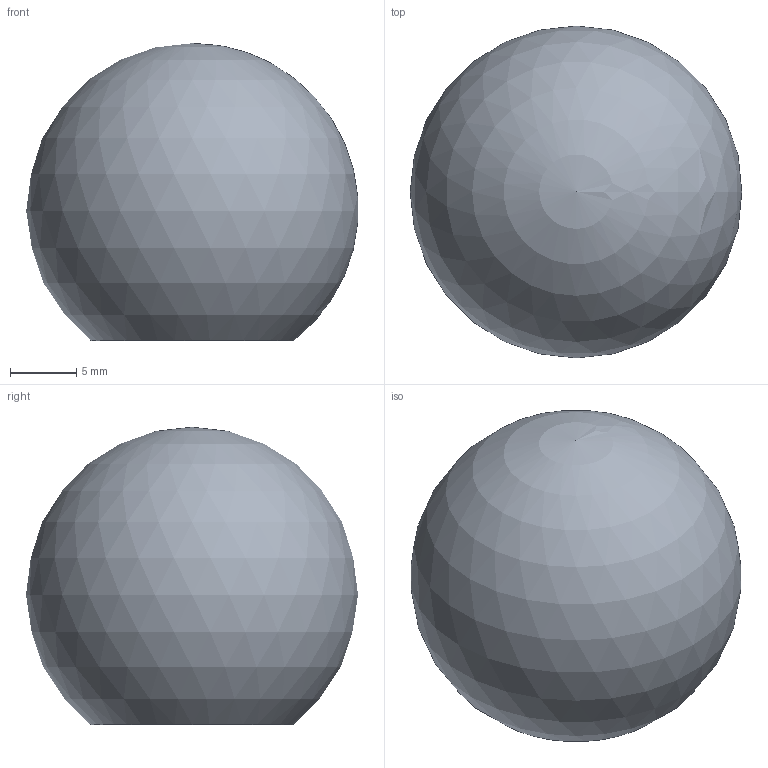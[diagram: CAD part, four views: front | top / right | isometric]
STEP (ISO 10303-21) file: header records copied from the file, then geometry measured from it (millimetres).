
FILE_DESCRIPTION( ('This file contains a STEP AP42 implementation' ,'as created by ZW3D STEP Interface translator.') ,'2;1' );
FILE_NAME( 'Galka kulista DK25 typA.stp' ,'26 331. 9 013', (''), ('ZWCAD Software Co.'), 'Version 1.0', 'ZW3D to STEP translator', '' );
FILE_SCHEMA(('AP242_MANAGED_MODEL_BASED_3D_ENGINEERING_MIM_LF { 1 0 10303 442 1 1 4 }'));
Length unit declared in the file: millimetre
Products named in the file (1): 0
Bounding box: 24.96 x 25 x 22.4 mm (x, y, z)
Volume: 7324.3 mm3; surface area: 4208.8 mm2
Topology: 2 solids, 2 shells, 17 faces, 30 edges, 17 vertices
Faces by surface type: cylinder 6, cone 6, plane 4, sphere 1
Full cylindrical faces by diameter (mm): 6.8 x2, 12.5 x2, 14.5 x2
Entity records: 433 total; most frequent: DIRECTION 80, CARTESIAN_POINT 63, ORIENTED_EDGE 56, AXIS2_PLACEMENT_3D 34, EDGE_CURVE 28, EDGE_LOOP 19, VERTEX_POINT 17, FACE_OUTER_BOUND 17
